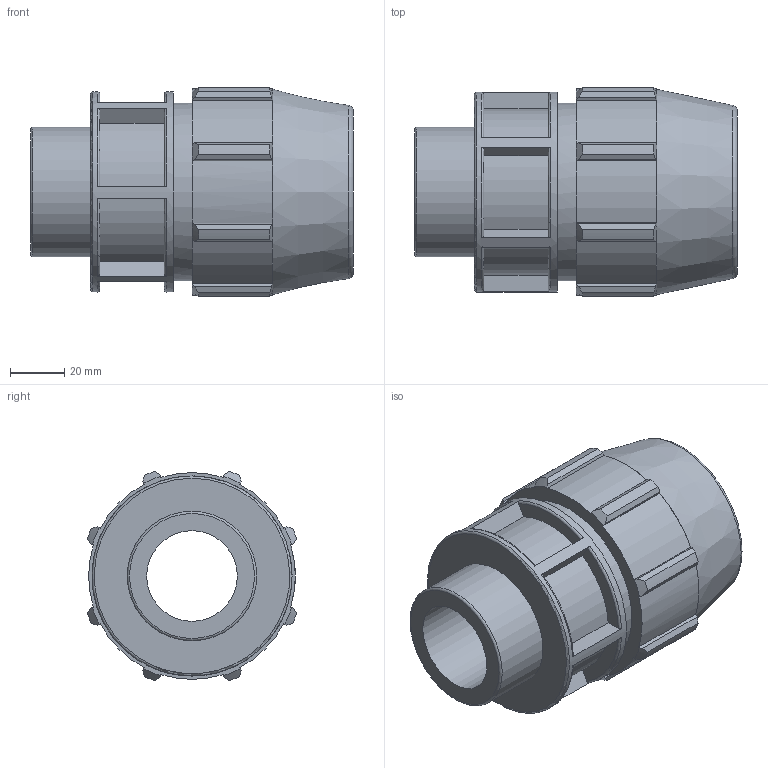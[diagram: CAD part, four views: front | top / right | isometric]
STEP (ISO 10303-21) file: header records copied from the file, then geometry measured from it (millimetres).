
FILE_DESCRIPTION(/* description */ ('PLASSON MALE ADAPTOR 1 1/4'''' - 1 1/2''''M'),/* implementation_level */ '2;1');
FILE_NAME(/* name */ 'C:\Dropbox\KIMPROJECTS-Inventor 2019\99-16-3568-Processing Inch\ASTM Compression 2021\0702M0T\0702M0T13015.ipt.stp',/* time_stamp */ '2021-08-26T12:30:19+03:00',/* author */ ('KIM'),/* organization */ (''),/* preprocessor_version */ 'ST-DEVELOPER v17.2',/* originating_system */ 'Autodesk Inventor 2019',/* authorisation */ '');
FILE_SCHEMA (('AUTOMOTIVE_DESIGN { 1 0 10303 214 3 1 1 }'));
Length unit declared in the file: inch
Products named in the file (1): 0702M0T13015
Bounding box: 119.13 x 77.2 x 77.2 mm (x, y, z)
Volume: 263118.8 mm3; surface area: 52998.4 mm2
Topology: 1 solids, 1 shells, 117 faces, 327 edges, 223 vertices
Faces by surface type: plane 63, cylinder 27, torus 15, cone 12
Full cylindrical faces by diameter (mm): 33.462 x1, 42.1 x1, 47.803 x1, 65.634 x1, 73.838 x1
Entity records: 4135 total; most frequent: CARTESIAN_POINT 948, ORIENTED_EDGE 654, DIRECTION 625, EDGE_CURVE 327, AXIS2_PLACEMENT_3D 236, VERTEX_POINT 223, LINE 153, VECTOR 153
